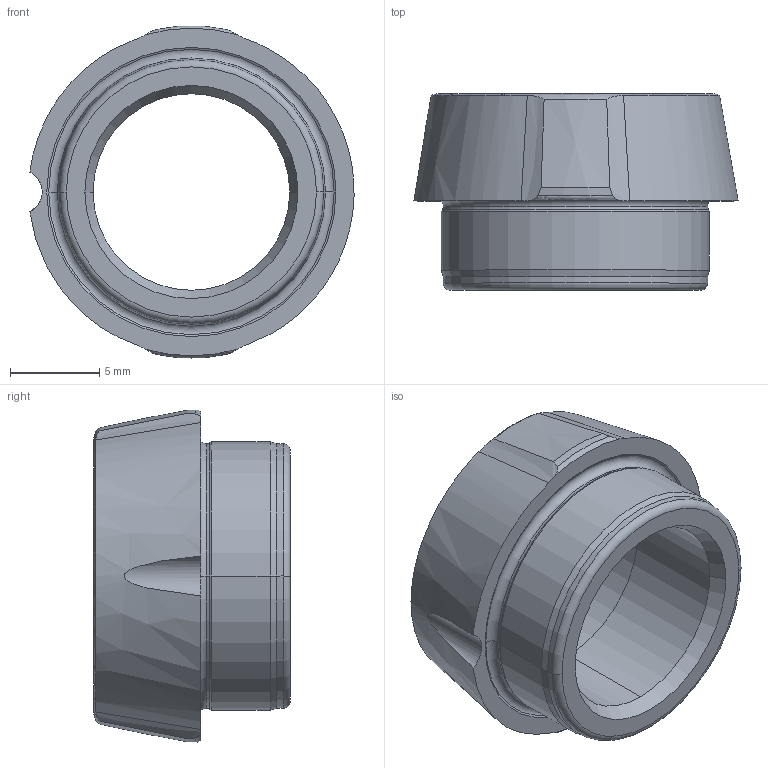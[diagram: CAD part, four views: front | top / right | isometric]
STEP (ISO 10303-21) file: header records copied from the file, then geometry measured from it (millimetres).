
FILE_DESCRIPTION (( 'STEP AP203' ), '1' );
FILE_NAME ('VXF0100-PC.STEP', '2014-11-25T04:58:48', ( '0393' ), ( 'Hewlett-Packard Company' ), 'SwSTEP 2.0', 'SolidWorks 2013', '' );
FILE_SCHEMA (( 'CONFIG_CONTROL_DESIGN' ));
Length unit declared in the file: millimetre
Products named in the file (1): VXF0100-PC
Bounding box: 18.14 x 11 x 18.58 mm (x, y, z)
Volume: 1214 mm3; surface area: 1185.6 mm2
Topology: 1 solids, 1 shells, 42 faces, 99 edges, 60 vertices
Faces by surface type: cone 16, cylinder 11, torus 10, plane 3, bspline 2
Entity records: 1458 total; most frequent: CARTESIAN_POINT 425, DIRECTION 208, ORIENTED_EDGE 198, EDGE_CURVE 99, AXIS2_PLACEMENT_3D 94, VERTEX_POINT 60, CIRCLE 53, EDGE_LOOP 45
